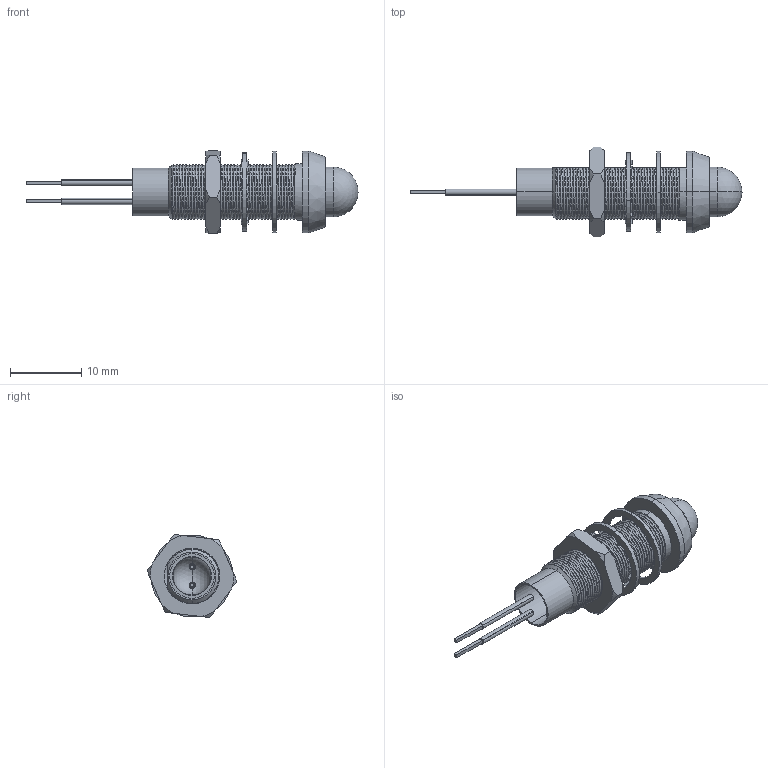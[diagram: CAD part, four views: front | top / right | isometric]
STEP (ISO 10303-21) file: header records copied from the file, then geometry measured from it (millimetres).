
FILE_DESCRIPTION (( 'STEP AP203' ), '1' );
FILE_NAME ('614 Bi-colour.STEP', '2016-08-04T14:55:32', ( '' ), ( '' ), 'SwSTEP 2.0', 'SolidWorks 2016', '' );
FILE_SCHEMA (( 'CONFIG_CONTROL_DESIGN' ));
Length unit declared in the file: millimetre
Products named in the file (8): Heatshrink R5 L5; COM2212; COM3554_threaded; 7DD; Part1^614-BIseries; COM3577; COM2236; 614 Bi-colour
Assembly tree (8 placements, depth 2):
  614 Bi-colour
    COM3554_threaded
    7DD
    COM2212
    COM2236
    COM3577
    Heatshrink R5 L5  x2
    Part1^614-BIseries
Bounding box: 46.6 x 12.62 x 11.66 mm (x, y, z)
Volume: 723.6 mm3; surface area: 2245.4 mm2
Topology: 9 solids, 9 shells, 353 faces, 979 edges, 644 vertices
Faces by surface type: bspline 138, plane 105, cylinder 78, cone 28, sphere 4
Entity records: 171723 total; most frequent: CARTESIAN_POINT 163747, ORIENTED_EDGE 1918, DIRECTION 987, EDGE_CURVE 959, VERTEX_POINT 632, AXIS2_PLACEMENT_3D 364, EDGE_LOOP 361, FACE_OUTER_BOUND 347
